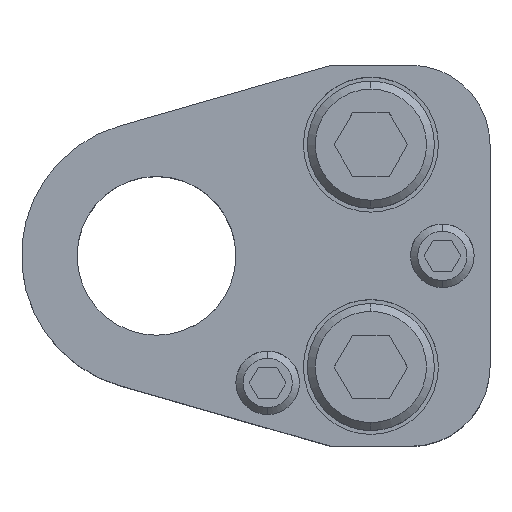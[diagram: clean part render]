
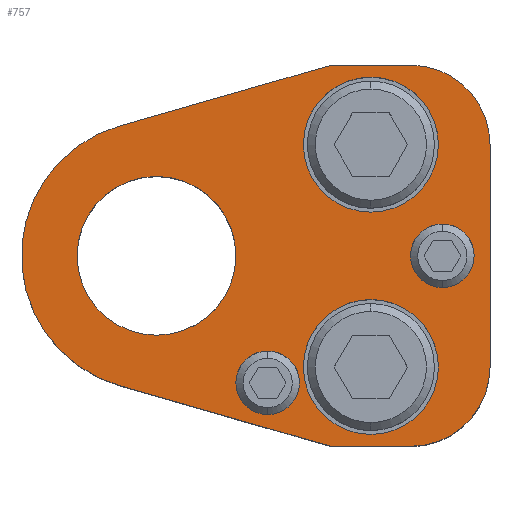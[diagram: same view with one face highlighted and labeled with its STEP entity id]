
A CAD part, top view. The second image highlights one B-rep face of the part: STEP entity #757.
In plain terms, the highlighted planar face has unit normal (0, 0, 1).
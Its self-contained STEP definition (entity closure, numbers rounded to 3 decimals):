
#428=LINE('',#3648,#598);
#433=LINE('',#3663,#603);
#437=LINE('',#3675,#607);
#442=LINE('',#3684,#612);
#447=LINE('',#3698,#617);
#598=VECTOR('',#2943,1.);
#603=VECTOR('',#2956,1.);
#607=VECTOR('',#2968,1.);
#612=VECTOR('',#2975,1.);
#617=VECTOR('',#2988,1.);
#757=ADVANCED_FACE('',(#863,#864,#865,#866,#867,#868),#834,.T.);
#834=PLANE('',#2455);
#863=FACE_BOUND('',#1003,.T.);
#864=FACE_BOUND('',#1004,.T.);
#865=FACE_BOUND('',#1005,.T.);
#866=FACE_BOUND('',#1006,.T.);
#867=FACE_BOUND('',#1007,.T.);
#868=FACE_BOUND('',#1008,.T.);
#1003=EDGE_LOOP('',(#1518,#1519,#1520,#1521,#1522,#1523,#1524,#1525));
#1004=EDGE_LOOP('',(#1526,#1527));
#1005=EDGE_LOOP('',(#1528,#1529));
#1006=EDGE_LOOP('',(#1530,#1531));
#1007=EDGE_LOOP('',(#1532,#1533));
#1008=EDGE_LOOP('',(#1534,#1535));
#1518=ORIENTED_EDGE('',*,*,#2038,.T.);
#1519=ORIENTED_EDGE('',*,*,#2020,.T.);
#1520=ORIENTED_EDGE('',*,*,#2024,.T.);
#1521=ORIENTED_EDGE('',*,*,#2027,.T.);
#1522=ORIENTED_EDGE('',*,*,#2030,.T.);
#1523=ORIENTED_EDGE('',*,*,#2033,.T.);
#1524=ORIENTED_EDGE('',*,*,#2045,.T.);
#1525=ORIENTED_EDGE('',*,*,#2041,.T.);
#1526=ORIENTED_EDGE('',*,*,#2080,.F.);
#1527=ORIENTED_EDGE('',*,*,#2081,.F.);
#1528=ORIENTED_EDGE('',*,*,#2082,.F.);
#1529=ORIENTED_EDGE('',*,*,#2083,.F.);
#1530=ORIENTED_EDGE('',*,*,#2070,.F.);
#1531=ORIENTED_EDGE('',*,*,#2066,.F.);
#1532=ORIENTED_EDGE('',*,*,#2064,.F.);
#1533=ORIENTED_EDGE('',*,*,#2060,.F.);
#1534=ORIENTED_EDGE('',*,*,#2084,.T.);
#1535=ORIENTED_EDGE('',*,*,#2085,.T.);
#1757=VERTEX_POINT('',#3647);
#1758=VERTEX_POINT('',#3649);
#1761=VERTEX_POINT('',#3656);
#1763=VERTEX_POINT('',#3662);
#1765=VERTEX_POINT('',#3668);
#1767=VERTEX_POINT('',#3674);
#1771=VERTEX_POINT('',#3685);
#1773=VERTEX_POINT('',#3691);
#1787=VERTEX_POINT('',#3733);
#1788=VERTEX_POINT('',#3734);
#1791=VERTEX_POINT('',#3745);
#1792=VERTEX_POINT('',#3746);
#1799=VERTEX_POINT('',#3773);
#1800=VERTEX_POINT('',#3774);
#1801=VERTEX_POINT('',#3777);
#1802=VERTEX_POINT('',#3778);
#1803=VERTEX_POINT('',#3781);
#1804=VERTEX_POINT('',#3782);
#2020=EDGE_CURVE('',#1758,#1757,#428,.T.);
#2024=EDGE_CURVE('',#1757,#1761,#2191,.T.);
#2027=EDGE_CURVE('',#1761,#1763,#433,.T.);
#2030=EDGE_CURVE('',#1763,#1765,#2193,.T.);
#2033=EDGE_CURVE('',#1765,#1767,#437,.T.);
#2038=EDGE_CURVE('',#1771,#1758,#442,.T.);
#2041=EDGE_CURVE('',#1773,#1771,#2196,.T.);
#2045=EDGE_CURVE('',#1767,#1773,#447,.T.);
#2060=EDGE_CURVE('',#1787,#1788,#2205,.T.);
#2064=EDGE_CURVE('',#1788,#1787,#2207,.T.);
#2066=EDGE_CURVE('',#1791,#1792,#2209,.T.);
#2070=EDGE_CURVE('',#1792,#1791,#2211,.T.);
#2080=EDGE_CURVE('',#1799,#1800,#2217,.T.);
#2081=EDGE_CURVE('',#1800,#1799,#2218,.T.);
#2082=EDGE_CURVE('',#1801,#1802,#2219,.T.);
#2083=EDGE_CURVE('',#1802,#1801,#2220,.T.);
#2084=EDGE_CURVE('',#1803,#1804,#2221,.T.);
#2085=EDGE_CURVE('',#1804,#1803,#2222,.T.);
#2191=CIRCLE('',#2406,10.);
#2193=CIRCLE('',#2410,10.);
#2196=CIRCLE('',#2416,17.);
#2205=CIRCLE('',#2429,4.);
#2207=CIRCLE('',#2432,4.);
#2209=CIRCLE('',#2435,4.);
#2211=CIRCLE('',#2438,4.);
#2217=CIRCLE('',#2449,8.5);
#2218=CIRCLE('',#2450,8.5);
#2219=CIRCLE('',#2451,8.5);
#2220=CIRCLE('',#2452,8.5);
#2221=CIRCLE('',#2453,10.);
#2222=CIRCLE('',#2454,10.);
#2406=AXIS2_PLACEMENT_3D('',#3657,#2949,#2950);
#2410=AXIS2_PLACEMENT_3D('',#3669,#2961,#2962);
#2416=AXIS2_PLACEMENT_3D('',#3690,#2981,#2982);
#2429=AXIS2_PLACEMENT_3D('',#3732,#3016,#3017);
#2432=AXIS2_PLACEMENT_3D('',#3741,#3024,#3025);
#2435=AXIS2_PLACEMENT_3D('',#3744,#3030,#3031);
#2438=AXIS2_PLACEMENT_3D('',#3753,#3038,#3039);
#2449=AXIS2_PLACEMENT_3D('',#3772,#3064,#3065);
#2450=AXIS2_PLACEMENT_3D('',#3775,#3066,#3067);
#2451=AXIS2_PLACEMENT_3D('',#3776,#3068,#3069);
#2452=AXIS2_PLACEMENT_3D('',#3779,#3070,#3071);
#2453=AXIS2_PLACEMENT_3D('',#3780,#3072,#3073);
#2454=AXIS2_PLACEMENT_3D('',#3783,#3074,#3075);
#2455=AXIS2_PLACEMENT_3D('',#3784,#3076,#3077);
#2943=DIRECTION('',(1.,0.,0.));
#2949=DIRECTION('',(0.,0.,1.));
#2950=DIRECTION('',(-0.707,0.707,0.));
#2956=DIRECTION('',(0.,1.,0.));
#2961=DIRECTION('',(0.,0.,1.));
#2962=DIRECTION('',(-0.707,-0.707,0.));
#2968=DIRECTION('',(-1.,0.,0.));
#2975=DIRECTION('',(0.961,-0.276,0.));
#2981=DIRECTION('',(0.,0.,1.));
#2982=DIRECTION('',(1.,0.,0.));
#2988=DIRECTION('',(-0.961,-0.276,0.));
#3016=DIRECTION('',(0.,0.,1.));
#3017=DIRECTION('',(-1.,0.,0.));
#3024=DIRECTION('',(0.,0.,1.));
#3025=DIRECTION('',(1.,0.,0.));
#3030=DIRECTION('',(0.,0.,1.));
#3031=DIRECTION('',(-1.,0.,0.));
#3038=DIRECTION('',(0.,0.,1.));
#3039=DIRECTION('',(1.,0.,0.));
#3064=DIRECTION('',(0.,0.,1.));
#3065=DIRECTION('',(1.,0.,0.));
#3066=DIRECTION('',(0.,0.,1.));
#3067=DIRECTION('',(-1.,0.,0.));
#3068=DIRECTION('',(0.,0.,1.));
#3069=DIRECTION('',(1.,0.,0.));
#3070=DIRECTION('',(0.,0.,1.));
#3071=DIRECTION('',(-1.,0.,0.));
#3072=DIRECTION('',(0.,0.,-1.));
#3073=DIRECTION('',(-1.,0.,0.));
#3074=DIRECTION('',(0.,0.,-1.));
#3075=DIRECTION('',(1.,0.,0.));
#3076=DIRECTION('',(0.,0.,1.));
#3077=DIRECTION('',(0.961,-0.276,0.));
#3647=CARTESIAN_POINT('',(32.,-24.,30.));
#3648=CARTESIAN_POINT('',(22.,-24.,30.));
#3649=CARTESIAN_POINT('',(22.,-24.,30.));
#3656=CARTESIAN_POINT('',(42.,-14.,30.));
#3657=CARTESIAN_POINT('',(32.,-14.,30.));
#3662=CARTESIAN_POINT('',(42.,14.,30.));
#3663=CARTESIAN_POINT('',(42.,14.,30.));
#3668=CARTESIAN_POINT('',(32.,24.,30.));
#3669=CARTESIAN_POINT('',(32.,14.,30.));
#3674=CARTESIAN_POINT('',(22.,24.,30.));
#3675=CARTESIAN_POINT('',(22.,24.,30.));
#3684=CARTESIAN_POINT('',(22.,-24.,30.));
#3685=CARTESIAN_POINT('',(-4.69,-16.34,30.));
#3690=CARTESIAN_POINT('',(0.,0.,30.));
#3691=CARTESIAN_POINT('',(-4.69,16.34,30.));
#3698=CARTESIAN_POINT('',(22.,24.,30.));
#3732=CARTESIAN_POINT('',(14.,-16.,30.));
#3733=CARTESIAN_POINT('',(14.,-20.,30.));
#3734=CARTESIAN_POINT('',(14.,-12.,30.));
#3741=CARTESIAN_POINT('',(14.,-16.,30.));
#3744=CARTESIAN_POINT('',(36.,0.,30.));
#3745=CARTESIAN_POINT('',(36.,-4.,30.));
#3746=CARTESIAN_POINT('',(36.,4.,30.));
#3753=CARTESIAN_POINT('',(36.,0.,30.));
#3772=CARTESIAN_POINT('',(27.,14.,30.));
#3773=CARTESIAN_POINT('',(27.,22.5,30.));
#3774=CARTESIAN_POINT('',(27.,5.5,30.));
#3775=CARTESIAN_POINT('',(27.,14.,30.));
#3776=CARTESIAN_POINT('',(27.,-14.,30.));
#3777=CARTESIAN_POINT('',(27.,-5.5,30.));
#3778=CARTESIAN_POINT('',(27.,-22.5,30.));
#3779=CARTESIAN_POINT('',(27.,-14.,30.));
#3780=CARTESIAN_POINT('',(0.,0.,30.));
#3781=CARTESIAN_POINT('',(0.,10.,30.));
#3782=CARTESIAN_POINT('',(0.,-10.,30.));
#3783=CARTESIAN_POINT('',(0.,0.,30.));
#3784=CARTESIAN_POINT('',(-4.69,-16.34,30.));
